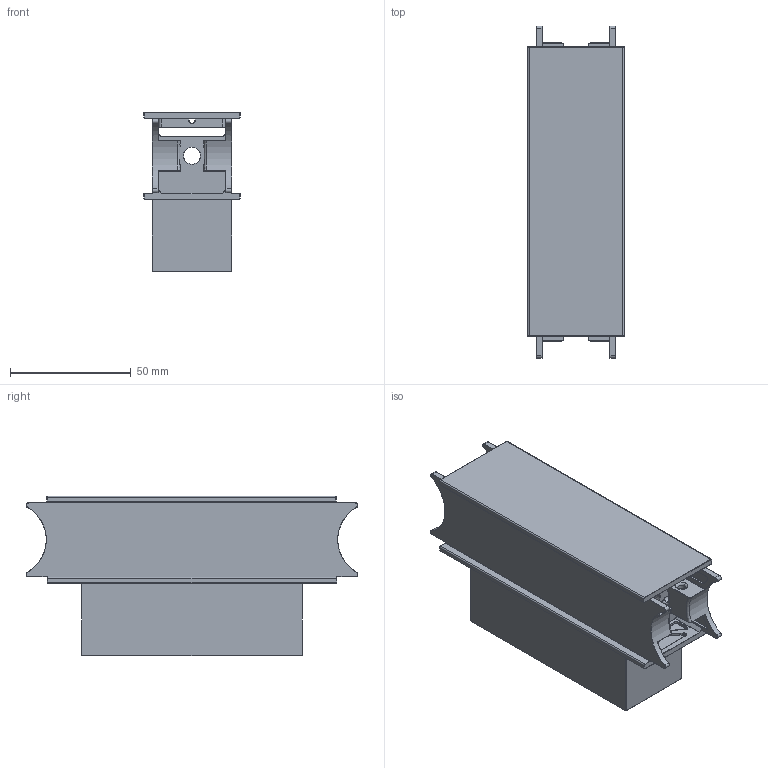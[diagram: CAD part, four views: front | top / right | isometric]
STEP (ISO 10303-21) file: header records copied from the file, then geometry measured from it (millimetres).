
FILE_DESCRIPTION (( 'STEP AP214' ), '1' );
FILE_NAME ('ACDISTSMXAPXXXX.STEP', '2023-08-28T15:05:14', ( '' ), ( '' ), 'SwSTEP 2.0', 'SolidWorks 2023', '' );
FILE_SCHEMA (( 'AUTOMOTIVE_DESIGN' ));
Length unit declared in the file: millimetre
Products named in the file (3): WSCP2E0026-1400-02; ACDISTSMXAPXXXX; WSCP2E0017-1400-01
Assembly tree (2 placements, depth 2):
  ACDISTSMXAPXXXX
    WSCP2E0026-1400-02
    WSCP2E0017-1400-01
Bounding box: 40 x 137.71 x 66.1 mm (x, y, z)
Volume: 62057 mm3; surface area: 59554.2 mm2
Topology: 2 solids, 2 shells, 2899 faces, 6653 edges, 3770 vertices
Faces by surface type: cylinder 1276, torus 1020, plane 466, bspline 84, sphere 53
Entity records: 82664 total; most frequent: DIRECTION 16090, CARTESIAN_POINT 15421, ORIENTED_EDGE 13184, AXIS2_PLACEMENT_3D 6846, EDGE_CURVE 6592, CIRCLE 4026, VERTEX_POINT 3769, EDGE_LOOP 2997
